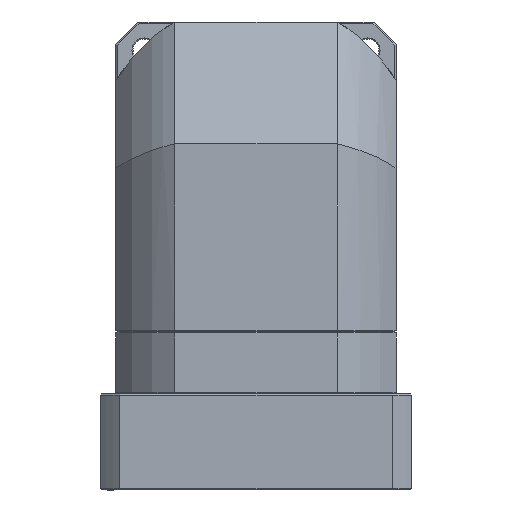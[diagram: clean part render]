
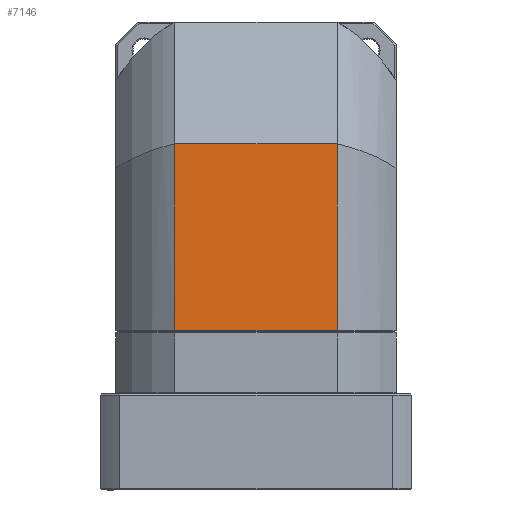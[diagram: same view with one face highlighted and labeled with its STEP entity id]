
A CAD part, front view. The second image highlights one B-rep face of the part: STEP entity #7146.
In plain terms, the highlighted planar face has unit normal (0, 1, 0).
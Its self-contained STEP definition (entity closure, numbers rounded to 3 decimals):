
#4927 = AXIS2_PLACEMENT_3D ( 'NONE', #63136, #15566, #71095 ) ;
#6477 = DIRECTION ( 'NONE',  ( 1., 0., 0. ) ) ;
#7146 = ADVANCED_FACE ( 'NONE', ( #37519 ), #31167, .F. ) ;
#12316 = CARTESIAN_POINT ( 'NONE',  ( -33.407, -261.111, -69.2 ) ) ;
#14266 = EDGE_CURVE ( 'NONE', #63054, #66790, #16003, .T. ) ;
#15566 = DIRECTION ( 'NONE',  ( 0., -1., 0. ) ) ;
#15816 = CARTESIAN_POINT ( 'NONE',  ( 0., -261.111, 7.5 ) ) ;
#16003 = LINE ( 'NONE', #43108, #34581 ) ;
#19624 = ORIENTED_EDGE ( 'NONE', *, *, #52830, .T. ) ;
#23824 = DIRECTION ( 'NONE',  ( 1., 0., 0. ) ) ;
#24639 = CARTESIAN_POINT ( 'NONE',  ( -33.407, -261.111, 7.5 ) ) ;
#30879 = EDGE_CURVE ( 'NONE', #63054, #102235, #68605, .T. ) ;
#31167 = PLANE ( 'NONE',  #4927 ) ;
#33500 = CARTESIAN_POINT ( 'NONE',  ( 33.407, -261.111, -30.62 ) ) ;
#34581 = VECTOR ( 'NONE', #59084, 1000. ) ;
#37519 = FACE_OUTER_BOUND ( 'NONE', #68629, .T. ) ;
#37650 = LINE ( 'NONE', #54058, #101070 ) ;
#43108 = CARTESIAN_POINT ( 'NONE',  ( -33.407, -261.111, -30.85 ) ) ;
#47511 = VECTOR ( 'NONE', #23824, 1000. ) ;
#50440 = CARTESIAN_POINT ( 'NONE',  ( 33.407, -261.111, 7.5 ) ) ;
#52830 = EDGE_CURVE ( 'NONE', #102235, #65809, #54119, .T. ) ;
#54058 = CARTESIAN_POINT ( 'NONE',  ( 0., -261.111, -69.2 ) ) ;
#54119 = LINE ( 'NONE', #33500, #72682 ) ;
#57494 = DIRECTION ( 'NONE',  ( 0., 0., -1. ) ) ;
#59084 = DIRECTION ( 'NONE',  ( 0., 0., -1. ) ) ;
#60838 = ORIENTED_EDGE ( 'NONE', *, *, #14266, .F. ) ;
#63054 = VERTEX_POINT ( 'NONE', #24639 ) ;
#63136 = CARTESIAN_POINT ( 'NONE',  ( -33.407, -261.111, -69.2 ) ) ;
#65809 = VERTEX_POINT ( 'NONE', #101113 ) ;
#66790 = VERTEX_POINT ( 'NONE', #12316 ) ;
#68539 = EDGE_CURVE ( 'NONE', #66790, #65809, #37650, .T. ) ;
#68605 = LINE ( 'NONE', #15816, #47511 ) ;
#68629 = EDGE_LOOP ( 'NONE', ( #19624, #95862, #60838, #73664 ) ) ;
#71095 = DIRECTION ( 'NONE',  ( 1., 0., 0. ) ) ;
#72682 = VECTOR ( 'NONE', #57494, 1000. ) ;
#73664 = ORIENTED_EDGE ( 'NONE', *, *, #30879, .T. ) ;
#95862 = ORIENTED_EDGE ( 'NONE', *, *, #68539, .F. ) ;
#101070 = VECTOR ( 'NONE', #6477, 1000. ) ;
#101113 = CARTESIAN_POINT ( 'NONE',  ( 33.407, -261.111, -69.2 ) ) ;
#102235 = VERTEX_POINT ( 'NONE', #50440 ) ;
